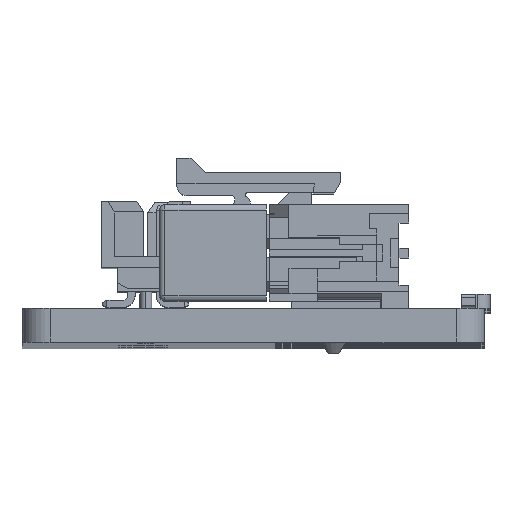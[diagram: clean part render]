
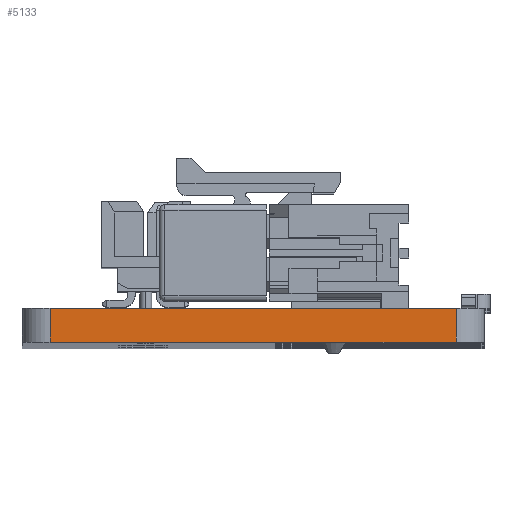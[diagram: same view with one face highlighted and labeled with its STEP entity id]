
A CAD part, top view. The second image highlights one B-rep face of the part: STEP entity #5133.
In plain terms, the highlighted planar face has unit normal (0, 0, 1) as drawn and (1, 0, 0) by its records, which use the part's own axes.
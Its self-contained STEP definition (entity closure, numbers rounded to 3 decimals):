
#2334=DIRECTION('',(0.,-1.,0.));
#2335=VECTOR('',#2334,2.4);
#2336=CARTESIAN_POINT('',(134.5,1.512,-23.8));
#2337=LINE('',#2336,#2335);
#2341=DIRECTION('',(0.,0.,1.));
#2342=VECTOR('',#2341,28.8);
#2343=CARTESIAN_POINT('',(134.5,-0.888,-23.8));
#2344=LINE('',#2343,#2342);
#2348=DIRECTION('',(0.,-1.,0.));
#2349=VECTOR('',#2348,2.4);
#2350=CARTESIAN_POINT('',(134.5,1.512,5.));
#2351=LINE('',#2350,#2349);
#2355=DIRECTION('',(0.,0.,-1.));
#2356=VECTOR('',#2355,28.8);
#2357=CARTESIAN_POINT('',(134.5,1.512,5.));
#2358=LINE('',#2357,#2356);
#2797=CARTESIAN_POINT('',(134.5,-0.888,-23.8));
#2798=VERTEX_POINT('',#2797);
#2799=CARTESIAN_POINT('',(134.5,1.512,-23.8));
#2800=VERTEX_POINT('',#2799);
#2801=CARTESIAN_POINT('',(134.5,-0.888,5.));
#2803=VERTEX_POINT('',#2801);
#2807=CARTESIAN_POINT('',(134.5,1.512,5.));
#2808=VERTEX_POINT('',#2807);
#5121=CARTESIAN_POINT('',(134.5,1.512,7.));
#5122=DIRECTION('',(1.,0.,0.));
#5123=DIRECTION('',(0.,0.,-1.));
#5124=AXIS2_PLACEMENT_3D('',#5121,#5122,#5123);
#5125=PLANE('',#5124);
#5126=ORIENTED_EDGE('',*,*,#5114,.T.);
#5127=ORIENTED_EDGE('',*,*,#3089,.T.);
#5129=ORIENTED_EDGE('',*,*,#5128,.F.);
#5130=ORIENTED_EDGE('',*,*,#2996,.T.);
#5131=EDGE_LOOP('',(#5126,#5127,#5129,#5130));
#5132=FACE_OUTER_BOUND('',#5131,.F.);
#5133=ADVANCED_FACE('',(#5132),#5125,.T.);
#2996=EDGE_CURVE('',#2808,#2800,#2358,.T.);
#3089=EDGE_CURVE('',#2798,#2803,#2344,.T.);
#5114=EDGE_CURVE('',#2800,#2798,#2337,.T.);
#5128=EDGE_CURVE('',#2808,#2803,#2351,.T.);
